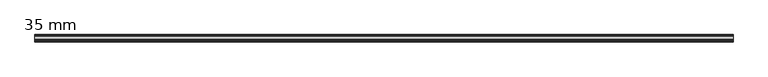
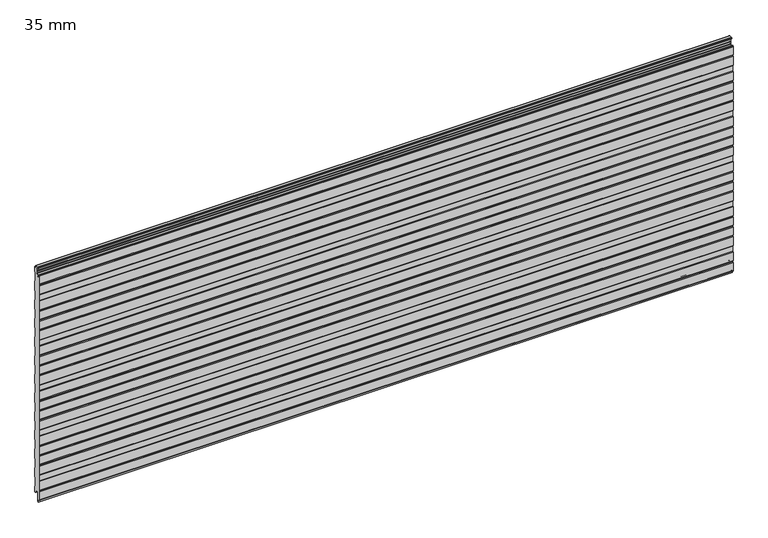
"""IFC4 building model written with IfcOpenShell, lengths in millimetres: plate geometry, HIANSA PANEL - H20.F02.002-PANELES DE FACHADA HORIZONTAL - PANEL PERFILADO - Panel de Muro Cortina : 35 mm."""

from ifc_helpers import new_model, si_unit, frame, origin, place, context, project, spatial, polyline, circle_curve, source, transform, mapped, element, save
from ifc_brep_helpers import plane_surface, cylinder_surface, revolved_surface, advanced_brep


def plate_35_mm_b4336f9e(model_context):
    return source(origin(), model_context, "Body", "AdvancedBrep", [
        advanced_brep(
        [(-1600.0, -33.8752798, 1088.9050598), (-1600.0, -32.5170803, 1089.9655099), (-1600.0, -29.8776596, 1089.9655099), (-1600.0, -29.8776596, 1080.8), (-1600.0, -28.3776596, 1079.3), (-1600.0, -24.1276596, 1079.3), (-1600.0, -22.6276596, 1080.8), (-1600.0, -22.6276596, 1082.4013031), (-1600.0, -21.9880243, 1083.6300312), (-1600.0, -15.9305067, 1087.8715506), (-1600.0, -15.0776596, 1089.5098547), (-1600.0, -15.0776596, 1098.6062275), (-1600.0, -14.3889845, 1099.7990478), (-1600.0, -14.3889845, 1100.7990478), (-1600.0, -15.0776596, 1101.9918681), (-1600.0, -15.0776596, 1111.0896684), (-1600.0, -15.9305067, 1112.7279725), (-1600.0, -21.9880243, 1116.969492), (-1600.0, -22.6276596, 1118.19822), (-1600.0, -22.6276596, 1121.5805697), (-1600.0, -21.1276596, 1123.0805697), (-1600.0, -7.7494039, 1123.0810465), (-1600.0, -6.7486887, 1122.0803313), (-1600.0, -6.7486887, 1115.9337883), (-1600.0, -4.7472517, 1113.9323514), (-1600.0, -1.4941037, 1113.9323514), (-1600.0, -0.5, 1112.9382477), (-1600.0, -0.5, 1088.0627766), (-1600.0, -1.5005169, 1085.0504228), (-1600.0, -1.5005169, 1044.8881451), (-1600.0, -0.5, 1041.8865945), (-1600.0, -0.5, 997.0519734), (-1600.0, -1.5005169, 994.0504228), (-1600.0, -1.5005169, 953.8881451), (-1600.0, -0.5, 950.8865945), (-1600.0, -0.5, 906.0519734), (-1600.0, -1.5005169, 903.0504228), (-1600.0, -1.5005169, 862.8881451), (-1600.0, -0.5, 859.8865945), (-1600.0, -0.5, 815.0519734), (-1600.0, -1.5005169, 812.0504228), (-1600.0, -1.5005169, 771.8881451), (-1600.0, -0.5, 768.8865945), (-1600.0, -0.5, 724.0519734), (-1600.0, -1.5005169, 721.0504228), (-1600.0, -1.5005169, 680.8881451), (-1600.0, -0.5, 677.8865945), (-1600.0, -0.5, 633.0519734), (-1600.0, -1.5005169, 630.0504228), (-1600.0, -1.5005169, 589.8881451), (-1600.0, -0.5, 586.8865945), (-1600.0, -0.5, 542.0519734), (-1600.0, -1.5005169, 539.0504228), (-1600.0, -1.5005169, 498.8881451), (-1600.0, -0.5, 495.8865945), (-1600.0, -0.5, 451.0519734), (-1600.0, -1.5005169, 448.0504228), (-1600.0, -1.5005169, 407.8881451), (-1600.0, -0.5, 404.8865945), (-1600.0, -0.5, 360.0519734), (-1600.0, -1.5005169, 357.0504228), (-1600.0, -1.5005169, 316.8881451), (-1600.0, -0.5, 313.8865945), (-1600.0, -0.5, 269.0519734), (-1600.0, -1.5005169, 266.0504228), (-1600.0, -1.5005169, 225.8881451), (-1600.0, -0.5, 222.8865945), (-1600.0, -0.5, 178.0519734), (-1600.0, -1.5005169, 175.0504228), (-1600.0, -1.5005169, 134.8881451), (-1600.0, -0.5, 131.8865945), (-1600.0, -0.5, 87.0519734), (-1600.0, -1.5005169, 84.0504228), (-1600.0, -1.5005169, 43.8881451), (-1600.0, -0.5, 40.8962672), (-1600.0, -0.5, 15.9680961), (-1600.0, -1.5000258, 14.9680403), (-1600.0, -4.4999967, 14.9677262), (-1600.0, -5.5000043, 15.9677319), (-1600.0, -5.5004096, 23.5818123), (-1600.0, -7.5396439, 25.6210465), (-1600.0, -21.3470846, 25.6210465), (-1600.0, -23.8839497, 23.0841814), (-1600.0, -23.8839497, -19.2), (-1600.0, -28.6276596, -19.2), (-1600.0, -28.6276596, -10.5344901), (-1600.0, -30.1276596, -9.0344901), (-1600.0, -32.5178943, -9.0344901), (-1600.0, -33.8750825, -7.9748295), (-1600.0, -34.5, -5.4751593), (-1600.0, -34.5, 33.6239573), (-1600.0, -33.4846118, 37.6855101), (-1600.0, -34.5, 41.7470629), (-1600.0, -34.5, 84.8265935), (-1600.0, -33.5, 87.8265935), (-1600.0, -33.5, 113.1008712), (-1600.0, -34.5, 116.1008712), (-1600.0, -34.5, 159.1804017), (-1600.0, -33.4846118, 163.2419545), (-1600.0, -34.5, 167.3035073), (-1600.0, -34.5, 206.4026239), (-1600.0, -33.4846118, 210.4641767), (-1600.0, -34.5, 214.5257295), (-1600.0, -34.5, 253.6248461), (-1600.0, -33.4846118, 257.6863989), (-1600.0, -34.5, 261.7479517), (-1600.0, -34.5, 304.8274823), (-1600.0, -33.5, 307.8274823), (-1600.0, -33.5, 333.10176), (-1600.0, -34.5, 336.10176), (-1600.0, -34.5, 379.1812905), (-1600.0, -33.4846118, 383.2428433), (-1600.0, -34.5, 387.3043961), (-1600.0, -34.5, 426.4035127), (-1600.0, -33.4846118, 430.4650655), (-1600.0, -34.5, 434.5266183), (-1600.0, -34.5, 473.6257349), (-1600.0, -33.4846118, 477.6872877), (-1600.0, -34.5, 481.7488405), (-1600.0, -34.5, 524.8283711), (-1600.0, -33.5, 527.8283711), (-1600.0, -33.5, 553.1026488), (-1600.0, -34.5, 556.1026488), (-1600.0, -34.5, 599.1821793), (-1600.0, -33.4846118, 603.2437321), (-1600.0, -34.5, 607.3052849), (-1600.0, -34.5, 646.4044015), (-1600.0, -33.4846118, 650.4659543), (-1600.0, -34.5, 654.5275071), (-1600.0, -34.5, 693.6266237), (-1600.0, -33.4846118, 697.6881765), (-1600.0, -34.5, 701.7497293), (-1600.0, -34.5, 744.8292599), (-1600.0, -33.5, 747.8292599), (-1600.0, -33.5, 773.1035376), (-1600.0, -34.5, 776.1035376), (-1600.0, -34.5, 819.1830681), (-1600.0, -33.4846118, 823.2446209), (-1600.0, -34.5, 827.3061737), (-1600.0, -34.5, 866.4052903), (-1600.0, -33.4846118, 870.4668431), (-1600.0, -34.5, 874.5283959), (-1600.0, -34.5, 913.6275125), (-1600.0, -33.4846118, 917.6890653), (-1600.0, -34.5, 921.7506181), (-1600.0, -34.5, 964.8301487), (-1600.0, -33.5, 967.8301487), (-1600.0, -33.5, 993.1044264), (-1600.0, -34.5, 996.1044264), (-1600.0, -34.5, 1039.1839569), (-1600.0, -33.4846118, 1043.2455097), (-1600.0, -34.5, 1047.3070625), (-1600.0, -34.5, 1086.4061791), (1600.0, -33.8752798, 1088.9050598), (1600.0, -34.5, 1086.4061791), (1600.0, -34.5, 1047.3070625), (1600.0, -33.4846118, 1043.2455097), (1600.0, -34.5, 1039.1839569), (1600.0, -34.5, 996.1044264), (1600.0, -33.5, 993.1044264), (1600.0, -33.5, 967.8301487), (1600.0, -34.5, 964.8301487), (1600.0, -34.5, 921.7506181), (1600.0, -33.4846118, 917.6890653), (1600.0, -34.5, 913.6275125), (1600.0, -34.5, 874.5283959), (1600.0, -33.4846118, 870.4668431), (1600.0, -34.5, 866.4052903), (1600.0, -34.5, 827.3061737), (1600.0, -33.4846118, 823.2446209), (1600.0, -34.5, 819.1830681), (1600.0, -34.5, 776.1035376), (1600.0, -33.5, 773.1035376), (1600.0, -33.5, 747.8292599), (1600.0, -34.5, 744.8292599), (1600.0, -34.5, 701.7497293), (1600.0, -33.4846118, 697.6881765), (1600.0, -34.5, 693.6266237), (1600.0, -34.5, 654.5275071), (1600.0, -33.4846118, 650.4659543), (1600.0, -34.5, 646.4044015), (1600.0, -34.5, 607.3052849), (1600.0, -33.4846118, 603.2437321), (1600.0, -34.5, 599.1821793), (1600.0, -34.5, 556.1026488), (1600.0, -33.5, 553.1026488), (1600.0, -33.5, 527.8283711), (1600.0, -34.5, 524.8283711), (1600.0, -34.5, 481.7488405), (1600.0, -33.4846118, 477.6872877), (1600.0, -34.5, 473.6257349), (1600.0, -34.5, 434.5266183), (1600.0, -33.4846118, 430.4650655), (1600.0, -34.5, 426.4035127), (1600.0, -34.5, 387.3043961), (1600.0, -33.4846118, 383.2428433), (1600.0, -34.5, 379.1812905), (1600.0, -34.5, 336.10176), (1600.0, -33.5, 333.10176), (1600.0, -33.5, 307.8274823), (1600.0, -34.5, 304.8274823), (1600.0, -34.5, 261.7479517), (1600.0, -33.4846118, 257.6863989), (1600.0, -34.5, 253.6248461), (1600.0, -34.5, 214.5257295), (1600.0, -33.4846118, 210.4641767), (1600.0, -34.5, 206.4026239), (1600.0, -34.5, 167.3035073), (1600.0, -33.4846118, 163.2419545), (1600.0, -34.5, 159.1804017), (1600.0, -34.5, 116.1008712), (1600.0, -33.5, 113.1008712), (1600.0, -33.5, 87.8265935), (1600.0, -34.5, 84.8265935), (1600.0, -34.5, 41.7470629), (1600.0, -33.4846118, 37.6855101), (1600.0, -34.5, 33.6239573), (1600.0, -34.5, -5.4751593), (1600.0, -33.8750825, -7.9748295), (1600.0, -32.5178943, -9.0344901), (1600.0, -30.1276596, -9.0344901), (1600.0, -28.6276596, -10.5344901), (1600.0, -28.6276596, -19.2), (1600.0, -23.8839497, -19.2), (1600.0, -23.8839497, 23.0841814), (1600.0, -21.3470846, 25.6210465), (1600.0, -7.5396439, 25.6210465), (1600.0, -5.5004096, 23.5818123), (1600.0, -5.5004096, 15.9677319), (1600.0, -4.4999967, 14.9677262), (1600.0, -1.5000258, 14.9680403), (1600.0, -0.5, 15.9680961), (1600.0, -0.5, 40.8962672), (1600.0, -1.5005169, 43.8881451), (1600.0, -1.5005169, 84.0504228), (1600.0, -0.5, 87.0519734), (1600.0, -0.5, 131.8865945), (1600.0, -1.5005169, 134.8881451), (1600.0, -1.5005169, 175.0504228), (1600.0, -0.5, 178.0519734), (1600.0, -0.5, 222.8865945), (1600.0, -1.5005169, 225.8881451), (1600.0, -1.5005169, 266.0504228), (1600.0, -0.5, 269.0519734), (1600.0, -0.5, 313.8865945), (1600.0, -1.5005169, 316.8881451), (1600.0, -1.5005169, 357.0504228), (1600.0, -0.5, 360.0519734), (1600.0, -0.5, 404.8865945), (1600.0, -1.5005169, 407.8881451), (1600.0, -1.5005169, 448.0504228), (1600.0, -0.5, 451.0519734), (1600.0, -0.5, 495.8865945), (1600.0, -1.5005169, 498.8881451), (1600.0, -1.5005169, 539.0504228), (1600.0, -0.5, 542.0519734), (1600.0, -0.5, 586.8865945), (1600.0, -1.5005169, 589.8881451), (1600.0, -1.5005169, 630.0504228), (1600.0, -0.5, 633.0519734), (1600.0, -0.5, 677.8865945), (1600.0, -1.5005169, 680.8881451), (1600.0, -1.5005169, 721.0504228), (1600.0, -0.5, 724.0519734), (1600.0, -0.5, 768.8865945), (1600.0, -1.5005169, 771.8881451), (1600.0, -1.5005169, 812.0504228), (1600.0, -0.5, 815.0519734), (1600.0, -0.5, 859.8865945), (1600.0, -1.5005169, 862.8881451), (1600.0, -1.5005169, 903.0504228), (1600.0, -0.5, 906.0519734), (1600.0, -0.5, 950.8865945), (1600.0, -1.5005169, 953.8881451), (1600.0, -1.5005169, 994.0504228), (1600.0, -0.5, 997.0519734), (1600.0, -0.5, 1041.8865945), (1600.0, -1.5005169, 1044.8881451), (1600.0, -1.5005169, 1085.0504228), (1600.0, -0.5, 1088.0627766), (1600.0, -0.5, 1112.9382477), (1600.0, -1.4941037, 1113.9323514), (1600.0, -4.7472517, 1113.9323514), (1600.0, -6.7486887, 1115.9337883), (1600.0, -6.7486887, 1122.0803313), (1600.0, -7.7494039, 1123.0810465), (1600.0, -21.1276596, 1123.0810465), (1600.0, -22.6276596, 1121.5805697), (1600.0, -22.6276596, 1118.19822), (1600.0, -21.9880243, 1116.969492), (1600.0, -15.9305067, 1112.7279725), (1600.0, -15.0776596, 1111.0896684), (1600.0, -15.0776596, 1101.9918681), (1600.0, -14.3889845, 1100.7990478), (1600.0, -14.3889845, 1099.7990478), (1600.0, -15.0776596, 1098.6062275), (1600.0, -15.0776596, 1089.5098547), (1600.0, -15.9305067, 1087.8715506), (1600.0, -21.9880243, 1083.6300312), (1600.0, -22.6276596, 1082.4013031), (1600.0, -22.6276596, 1080.8), (1600.0, -24.1276596, 1079.3), (1600.0, -28.3776596, 1079.3), (1600.0, -29.8776596, 1080.8), (1600.0, -29.8776596, 1089.9655099), (1600.0, -32.5170803, 1089.9655099)],
        [
            (0, 1, circle_curve(frame((-1600.0, -32.5170803, 1088.5655099), z_axis=(-1.0, 0.0, 0.0), x_axis=(0.0, 0.0, 1.0)), 1.4)),
            (1, 2),
            (2, 3),
            (3, 4, circle_curve(frame((-1600.0, -28.3776596, 1080.8), z_axis=(1.0, 0.0, 0.0), x_axis=(0.0, 0.0, 1.0)), 1.5)),
            (4, 5),
            (5, 6, circle_curve(frame((-1600.0, -24.1276596, 1080.8), z_axis=(1.0, 0.0, 0.0), x_axis=(0.0, 0.0, 1.0)), 1.5)),
            (6, 7),
            (7, 8, circle_curve(frame((-1600.0, -21.1276596, 1082.4013031), z_axis=(-1.0, 0.0, 0.0), x_axis=(0.0, 0.0, 1.0)), 1.5)),
            (8, 9),
            (9, 10, circle_curve(frame((-1600.0, -17.0776596, 1089.5098547), z_axis=(1.0, 0.0, 0.0), x_axis=(0.0, 0.0, 1.0)), 2.0)),
            (10, 11),
            (11, 12),
            (12, 13, circle_curve(frame((-1600.0, -15.2550099, 1100.2990478), z_axis=(1.0, 0.0, 0.0), x_axis=(0.0, 0.0, 1.0)), 1.0)),
            (13, 14),
            (14, 15),
            (15, 16, circle_curve(frame((-1600.0, -17.0776596, 1111.0896684), z_axis=(1.0, 0.0, 0.0), x_axis=(0.0, 0.0, 1.0)), 2.0)),
            (16, 17),
            (17, 18, circle_curve(frame((-1600.0, -21.1276596, 1118.19822), z_axis=(-1.0, 0.0, 0.0), x_axis=(0.0, 0.0, 1.0)), 1.5)),
            (18, 19),
            (19, 20, circle_curve(frame((-1600.0, -21.1276596, 1121.5805697), z_axis=(-1.0, 0.0, 0.0), x_axis=(0.0, 0.0, 1.0)), 1.5)),
            (20, 21),
            (21, 22, circle_curve(frame((-1600.0, -7.7494039, 1122.0803313), z_axis=(-1.0, 0.0, 0.0), x_axis=(0.0, 0.0, 1.0)), 1.0007153)),
            (22, 23),
            (23, 24, circle_curve(frame((-1600.0, -4.7472517, 1115.9337883), z_axis=(1.0, 0.0, 0.0), x_axis=(0.0, 0.0, 1.0)), 2.0014369)),
            (24, 25),
            (25, 26, circle_curve(frame((-1600.0, -1.4941037, 1112.9382477), z_axis=(-1.0, 0.0, 0.0), x_axis=(0.0, 0.0, 1.0)), 0.9941037)),
            (26, 27),
            (27, 28),
            (28, 29),
            (29, 30),
            (30, 31),
            (31, 32),
            (32, 33),
            (33, 34),
            (34, 35),
            (35, 36),
            (36, 37),
            (37, 38),
            (38, 39),
            (39, 40),
            (40, 41),
            (41, 42),
            (42, 43),
            (43, 44),
            (44, 45),
            (45, 46),
            (46, 47),
            (47, 48),
            (48, 49),
            (49, 50),
            (50, 51),
            (51, 52),
            (52, 53),
            (53, 54),
            (54, 55),
            (55, 56),
            (56, 57),
            (57, 58),
            (58, 59),
            (59, 60),
            (60, 61),
            (61, 62),
            (62, 63),
            (63, 64),
            (64, 65),
            (65, 66),
            (66, 67),
            (67, 68),
            (68, 69),
            (69, 70),
            (70, 71),
            (71, 72),
            (72, 73),
            (73, 74),
            (74, 75),
            (75, 76, circle_curve(frame((-1600.0, -1.5000558, 15.9680961), z_axis=(-1.0, 0.0, 0.0), x_axis=(0.0, 0.0, 1.0)), 1.0000558)),
            (76, 77),
            (77, 78, circle_curve(frame((-1600.0, -4.4999986, 15.9677319), z_axis=(-1.0, 0.0, 0.0), x_axis=(0.0, 0.0, 1.0)), 1.0000057)),
            (78, 79),
            (79, 80, circle_curve(frame((-1600.0, -7.5396439, 23.5818123), z_axis=(1.0, 0.0, 0.0), x_axis=(0.0, 0.0, 1.0)), 2.0392343)),
            (80, 81),
            (81, 82, circle_curve(frame((-1600.0, -21.3470846, 23.0841814), z_axis=(1.0, 0.0, 0.0), x_axis=(0.0, 0.0, 1.0)), 2.5368651)),
            (82, 83),
            (83, 84),
            (84, 85),
            (85, 86, circle_curve(frame((-1600.0, -30.1276596, -10.5344901), z_axis=(1.0, 0.0, 0.0), x_axis=(0.0, 0.0, 1.0)), 1.5)),
            (86, 87),
            (87, 88, circle_curve(frame((-1600.0, -32.5178943, -7.6355325), z_axis=(-1.0, 0.0, 0.0), x_axis=(0.0, 0.0, 1.0)), 1.3989576)),
            (88, 89),
            (89, 90),
            (90, 91),
            (91, 92),
            (92, 93),
            (93, 94),
            (94, 95),
            (95, 96),
            (96, 97),
            (97, 98),
            (98, 99),
            (99, 100),
            (100, 101),
            (101, 102),
            (102, 103),
            (103, 104),
            (104, 105),
            (105, 106),
            (106, 107),
            (107, 108),
            (108, 109),
            (109, 110),
            (110, 111),
            (111, 112),
            (112, 113),
            (113, 114),
            (114, 115),
            (115, 116),
            (116, 117),
            (117, 118),
            (118, 119),
            (119, 120),
            (120, 121),
            (121, 122),
            (122, 123),
            (123, 124),
            (124, 125),
            (125, 126),
            (126, 127),
            (127, 128),
            (128, 129),
            (129, 130),
            (130, 131),
            (131, 132),
            (132, 133),
            (133, 134),
            (134, 135),
            (135, 136),
            (136, 137),
            (137, 138),
            (138, 139),
            (139, 140),
            (140, 141),
            (141, 142),
            (142, 143),
            (143, 144),
            (144, 145),
            (145, 146),
            (146, 147),
            (147, 148),
            (148, 149),
            (149, 150),
            (150, 151),
            (151, 152),
            (152, 0),
            (153, 154),
            (154, 155),
            (155, 156),
            (156, 157),
            (157, 158),
            (158, 159),
            (159, 160),
            (160, 161),
            (161, 162),
            (162, 163),
            (163, 164),
            (164, 165),
            (165, 166),
            (166, 167),
            (167, 168),
            (168, 169),
            (169, 170),
            (170, 171),
            (171, 172),
            (172, 173),
            (173, 174),
            (174, 175),
            (175, 176),
            (176, 177),
            (177, 178),
            (178, 179),
            (179, 180),
            (180, 181),
            (181, 182),
            (182, 183),
            (183, 184),
            (184, 185),
            (185, 186),
            (186, 187),
            (187, 188),
            (188, 189),
            (189, 190),
            (190, 191),
            (191, 192),
            (192, 193),
            (193, 194),
            (194, 195),
            (195, 196),
            (196, 197),
            (197, 198),
            (198, 199),
            (199, 200),
            (200, 201),
            (201, 202),
            (202, 203),
            (203, 204),
            (204, 205),
            (205, 206),
            (206, 207),
            (207, 208),
            (208, 209),
            (209, 210),
            (210, 211),
            (211, 212),
            (212, 213),
            (213, 214),
            (214, 215),
            (215, 216),
            (216, 217),
            (217, 218),
            (218, 219, circle_curve(frame((1600.0, -32.5178943, -7.6355325), z_axis=(1.0, 0.0, 0.0), x_axis=(0.0, 0.0, 1.0)), 1.3989576)),
            (219, 220),
            (220, 221, circle_curve(frame((1600.0, -30.1276596, -10.5344901), z_axis=(-1.0, 0.0, 0.0), x_axis=(0.0, 0.0, 1.0)), 1.5)),
            (221, 222),
            (222, 223),
            (223, 224),
            (224, 225, circle_curve(frame((1600.0, -21.3470846, 23.0841814), z_axis=(-1.0, 0.0, 0.0), x_axis=(0.0, 0.0, 1.0)), 2.5368651)),
            (225, 226),
            (226, 227, circle_curve(frame((1600.0, -7.5396439, 23.5818123), z_axis=(-1.0, 0.0, 0.0), x_axis=(0.0, 0.0, 1.0)), 2.0392343)),
            (227, 228),
            (228, 229, circle_curve(frame((1600.0, -4.4999986, 15.9677319), z_axis=(1.0, 0.0, 0.0), x_axis=(0.0, 0.0, 1.0)), 1.0000057)),
            (229, 230),
            (230, 231, circle_curve(frame((1600.0, -1.5000558, 15.9680961), z_axis=(1.0, 0.0, 0.0), x_axis=(0.0, 0.0, 1.0)), 1.0000558)),
            (231, 232),
            (232, 233),
            (233, 234),
            (234, 235),
            (235, 236),
            (236, 237),
            (237, 238),
            (238, 239),
            (239, 240),
            (240, 241),
            (241, 242),
            (242, 243),
            (243, 244),
            (244, 245),
            (245, 246),
            (246, 247),
            (247, 248),
            (248, 249),
            (249, 250),
            (250, 251),
            (251, 252),
            (252, 253),
            (253, 254),
            (254, 255),
            (255, 256),
            (256, 257),
            (257, 258),
            (258, 259),
            (259, 260),
            (260, 261),
            (261, 262),
            (262, 263),
            (263, 264),
            (264, 265),
            (265, 266),
            (266, 267),
            (267, 268),
            (268, 269),
            (269, 270),
            (270, 271),
            (271, 272),
            (272, 273),
            (273, 274),
            (274, 275),
            (275, 276),
            (276, 277),
            (277, 278),
            (278, 279),
            (279, 280),
            (280, 281, circle_curve(frame((1600.0, -1.4941037, 1112.9382477), z_axis=(1.0, 0.0, 0.0), x_axis=(0.0, 0.0, 1.0)), 0.9941037)),
            (281, 282),
            (282, 283, circle_curve(frame((1600.0, -4.7472517, 1115.9337883), z_axis=(-1.0, 0.0, 0.0), x_axis=(0.0, 0.0, 1.0)), 2.0014369)),
            (283, 284),
            (284, 285, circle_curve(frame((1600.0, -7.7494039, 1122.0803313), z_axis=(1.0, 0.0, 0.0), x_axis=(0.0, 0.0, 1.0)), 1.0007153)),
            (285, 286),
            (286, 287, circle_curve(frame((1600.0, -21.1276596, 1121.5805697), z_axis=(1.0, 0.0, 0.0), x_axis=(0.0, 0.0, 1.0)), 1.5)),
            (287, 288),
            (288, 289, circle_curve(frame((1600.0, -21.1276596, 1118.19822), z_axis=(1.0, 0.0, 0.0), x_axis=(0.0, 0.0, 1.0)), 1.5)),
            (289, 290),
            (290, 291, circle_curve(frame((1600.0, -17.0776596, 1111.0896684), z_axis=(-1.0, 0.0, 0.0), x_axis=(0.0, 0.0, 1.0)), 2.0)),
            (291, 292),
            (292, 293),
            (293, 294, circle_curve(frame((1600.0, -15.2550099, 1100.2990478), z_axis=(-1.0, 0.0, 0.0), x_axis=(0.0, 0.0, 1.0)), 1.0)),
            (294, 295),
            (295, 296),
            (296, 297, circle_curve(frame((1600.0, -17.0776596, 1089.5098547), z_axis=(-1.0, 0.0, 0.0), x_axis=(0.0, 0.0, 1.0)), 2.0)),
            (297, 298),
            (298, 299, circle_curve(frame((1600.0, -21.1276596, 1082.4013031), z_axis=(1.0, 0.0, 0.0), x_axis=(0.0, 0.0, 1.0)), 1.5)),
            (299, 300),
            (300, 301, circle_curve(frame((1600.0, -24.1276596, 1080.8), z_axis=(-1.0, 0.0, 0.0), x_axis=(0.0, 0.0, 1.0)), 1.5)),
            (301, 302),
            (302, 303, circle_curve(frame((1600.0, -28.3776596, 1080.8), z_axis=(-1.0, 0.0, 0.0), x_axis=(0.0, 0.0, 1.0)), 1.5)),
            (303, 304),
            (304, 305),
            (305, 153, circle_curve(frame((1600.0, -32.5170803, 1088.5655099), z_axis=(1.0, 0.0, 0.0), x_axis=(0.0, 0.0, 1.0)), 1.4)),
            (147, 159),
            (158, 148),
            (146, 160),
            (145, 161),
            (144, 162),
            (143, 163),
            (142, 164),
            (141, 165),
            (140, 166),
            (139, 167),
            (138, 168),
            (137, 169),
            (136, 170),
            (135, 171),
            (134, 172),
            (133, 173),
            (132, 174),
            (131, 175),
            (130, 176),
            (129, 177),
            (128, 178),
            (127, 179),
            (126, 180),
            (125, 181),
            (124, 182),
            (123, 183),
            (122, 184),
            (121, 185),
            (120, 186),
            (119, 187),
            (118, 188),
            (117, 189),
            (116, 190),
            (115, 191),
            (114, 192),
            (113, 193),
            (112, 194),
            (111, 195),
            (110, 196),
            (109, 197),
            (108, 198),
            (107, 199),
            (106, 200),
            (105, 201),
            (104, 202),
            (103, 203),
            (102, 204),
            (101, 205),
            (100, 206),
            (99, 207),
            (98, 208),
            (97, 209),
            (96, 210),
            (95, 211),
            (94, 212),
            (93, 213),
            (92, 214),
            (91, 215),
            (90, 216),
            (89, 217),
            (88, 218),
            (87, 219),
            (86, 220),
            (85, 221),
            (84, 222),
            (83, 223),
            (82, 224),
            (81, 225),
            (80, 226),
            (79, 227),
            (78, 228),
            (74, 232),
            (231, 75),
            (73, 233),
            (72, 234),
            (71, 235),
            (70, 236),
            (69, 237),
            (68, 238),
            (67, 239),
            (66, 240),
            (65, 241),
            (64, 242),
            (63, 243),
            (62, 244),
            (61, 245),
            (60, 246),
            (59, 247),
            (58, 248),
            (57, 249),
            (56, 250),
            (55, 251),
            (54, 252),
            (53, 253),
            (52, 254),
            (51, 255),
            (50, 256),
            (49, 257),
            (48, 258),
            (47, 259),
            (46, 260),
            (45, 261),
            (44, 262),
            (43, 263),
            (42, 264),
            (41, 265),
            (40, 266),
            (39, 267),
            (38, 268),
            (37, 269),
            (36, 270),
            (35, 271),
            (34, 272),
            (33, 273),
            (32, 274),
            (31, 275),
            (30, 276),
            (152, 154),
            (153, 0),
            (151, 155),
            (150, 156),
            (149, 157),
            (29, 277),
            (28, 278),
            (27, 279),
            (26, 280),
            (25, 281),
            (24, 282),
            (23, 283),
            (22, 284),
            (21, 285),
            (20, 286),
            (19, 287),
            (18, 288),
            (17, 289),
            (16, 290),
            (15, 291),
            (9, 297),
            (296, 10),
            (8, 298),
            (7, 299),
            (6, 300),
            (5, 301),
            (4, 302),
            (3, 303),
            (2, 304),
            (1, 305),
            (14, 292),
            (13, 293),
            (12, 294),
            (11, 295),
            (77, 229),
            (76, 230),
        ],
        [
            plane_surface(frame((-1600.0, 0.0, 0.0), z_axis=(-1.0, 0.0, 0.0), x_axis=(0.0, 0.0, 1.0))),
            plane_surface(frame((1600.0, 0.0, 0.0), z_axis=(1.0, 0.0, 0.0), x_axis=(0.0, 0.0, 1.0))),
            plane_surface(frame((-1600.0, -34.5, 996.1044264), z_axis=(0.0, -0.9486832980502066, -0.3162277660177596), x_axis=(1.0, 0.0, 0.0))),
            plane_surface(frame((-1600.0, -33.5, 993.1044264), z_axis=(0.0, -1.0, 0.0), x_axis=(1.0, 0.0, 0.0))),
            plane_surface(frame((-1600.0, -33.5, 967.8301487), z_axis=(0.0, -0.9486832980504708, 0.3162277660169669), x_axis=(1.0, 0.0, 0.0))),
            plane_surface(frame((-1600.0, -34.5, 964.8301487), z_axis=(0.0, -1.0, 0.0), x_axis=(1.0, 0.0, 0.0))),
            plane_surface(frame((-1600.0, -34.5, 921.7506181), z_axis=(0.0, -0.9701425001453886, -0.24253562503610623), x_axis=(1.0, 0.0, 0.0))),
            plane_surface(frame((-1600.0, -33.4846118, 917.6890653), z_axis=(0.0, -0.9701425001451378, 0.24253562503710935), x_axis=(1.0, 0.0, 0.0))),
            plane_surface(frame((-1600.0, -34.5, 913.6275125), z_axis=(0.0, -1.0, 0.0), x_axis=(1.0, 0.0, 0.0))),
            plane_surface(frame((-1600.0, -34.5, 874.5283959), z_axis=(0.0, -0.9701425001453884, -0.2425356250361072), x_axis=(1.0, 0.0, 0.0))),
            plane_surface(frame((-1600.0, -33.4846118, 870.4668431), z_axis=(0.0, -0.970142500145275, 0.24253562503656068), x_axis=(1.0, 0.0, 0.0))),
            plane_surface(frame((-1600.0, -34.5, 866.4052903), z_axis=(0.0, -1.0, 0.0), x_axis=(1.0, 0.0, 0.0))),
            plane_surface(frame((-1600.0, -34.5, 827.3061737), z_axis=(0.0, -0.9701425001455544, -0.2425356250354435), x_axis=(1.0, 0.0, 0.0))),
            plane_surface(frame((-1600.0, -33.4846118, 823.2446209), z_axis=(0.0, -0.9701425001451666, 0.24253562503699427), x_axis=(1.0, 0.0, 0.0))),
            plane_surface(frame((-1600.0, -34.5, 819.1830681), z_axis=(0.0, -1.0, 0.0), x_axis=(1.0, 0.0, 0.0))),
            plane_surface(frame((-1600.0, -34.5, 776.1035376), z_axis=(0.0, -0.9486832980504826, -0.31622776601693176), x_axis=(1.0, 0.0, 0.0))),
            plane_surface(frame((-1600.0, -33.5, 773.1035376), z_axis=(0.0, -1.0, 0.0), x_axis=(1.0, 0.0, 0.0))),
            plane_surface(frame((-1600.0, -33.5, 747.8292599), z_axis=(0.0, -0.9486832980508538, 0.316227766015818), x_axis=(1.0, 0.0, 0.0))),
            plane_surface(frame((-1600.0, -34.5, 744.8292599), z_axis=(0.0, -1.0, 0.0), x_axis=(1.0, 0.0, 0.0))),
            plane_surface(frame((-1600.0, -34.5, 701.7497293), z_axis=(0.0, -0.9701425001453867, -0.24253562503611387), x_axis=(1.0, 0.0, 0.0))),
            plane_surface(frame((-1600.0, -33.4846118, 697.6881765), z_axis=(0.0, -0.9701425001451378, 0.24253562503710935), x_axis=(1.0, 0.0, 0.0))),
            plane_surface(frame((-1600.0, -34.5, 693.6266237), z_axis=(0.0, -1.0, 0.0), x_axis=(1.0, 0.0, 0.0))),
            plane_surface(frame((-1600.0, -34.5, 654.5275071), z_axis=(0.0, -0.9701425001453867, -0.24253562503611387), x_axis=(1.0, 0.0, 0.0))),
            plane_surface(frame((-1600.0, -33.4846118, 650.4659543), z_axis=(0.0, -0.9701425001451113, 0.24253562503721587), x_axis=(1.0, 0.0, 0.0))),
            plane_surface(frame((-1600.0, -34.5, 646.4044015), z_axis=(0.0, -1.0, 0.0), x_axis=(1.0, 0.0, 0.0))),
            plane_surface(frame((-1600.0, -34.5, 607.3052849), z_axis=(0.0, -0.9701425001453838, -0.24253562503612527), x_axis=(1.0, 0.0, 0.0))),
            plane_surface(frame((-1600.0, -33.4846118, 603.2437321), z_axis=(0.0, -0.9701425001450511, 0.24253562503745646), x_axis=(1.0, 0.0, 0.0))),
            plane_surface(frame((-1600.0, -34.5, 599.1821793), z_axis=(0.0, -1.0, 0.0), x_axis=(1.0, 0.0, 0.0))),
            plane_surface(frame((-1600.0, -34.5, 556.1026488), z_axis=(0.0, -0.9486832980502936, -0.31622776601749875), x_axis=(1.0, 0.0, 0.0))),
            plane_surface(frame((-1600.0, -33.5, 553.1026488), z_axis=(0.0, -1.0, 0.0), x_axis=(1.0, 0.0, 0.0))),
            plane_surface(frame((-1600.0, -33.5, 527.8283711), z_axis=(0.0, -0.9486832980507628, 0.31622776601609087), x_axis=(1.0, 0.0, 0.0))),
            plane_surface(frame((-1600.0, -34.5, 524.8283711), z_axis=(0.0, -1.0, 0.0), x_axis=(1.0, 0.0, 0.0))),
            plane_surface(frame((-1600.0, -34.5, 481.7488405), z_axis=(0.0, -0.9701425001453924, -0.24253562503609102), x_axis=(1.0, 0.0, 0.0))),
            plane_surface(frame((-1600.0, -33.4846118, 477.6872877), z_axis=(0.0, -0.970142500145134, 0.24253562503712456), x_axis=(1.0, 0.0, 0.0))),
            plane_surface(frame((-1600.0, -34.5, 473.6257349), z_axis=(0.0, -1.0, 0.0), x_axis=(1.0, 0.0, 0.0))),
            plane_surface(frame((-1600.0, -34.5, 434.5266183), z_axis=(0.0, -0.9701425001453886, -0.24253562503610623), x_axis=(1.0, 0.0, 0.0))),
            plane_surface(frame((-1600.0, -33.4846118, 430.4650655), z_axis=(0.0, -0.9701425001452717, 0.24253562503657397), x_axis=(1.0, 0.0, 0.0))),
            plane_surface(frame((-1600.0, -34.5, 426.4035127), z_axis=(0.0, -1.0, 0.0), x_axis=(1.0, 0.0, 0.0))),
            plane_surface(frame((-1600.0, -34.5, 387.3043961), z_axis=(0.0, -0.9701425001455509, -0.24253562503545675), x_axis=(1.0, 0.0, 0.0))),
            plane_surface(frame((-1600.0, -33.4846118, 383.2428433), z_axis=(0.0, -0.9701425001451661, 0.2425356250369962), x_axis=(1.0, 0.0, 0.0))),
            plane_surface(frame((-1600.0, -34.5, 379.1812905), z_axis=(0.0, -1.0, 0.0), x_axis=(1.0, 0.0, 0.0))),
            plane_surface(frame((-1600.0, -34.5, 336.10176), z_axis=(0.0, -0.9486832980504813, -0.3162277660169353), x_axis=(1.0, 0.0, 0.0))),
            plane_surface(frame((-1600.0, -33.5, 333.10176), z_axis=(0.0, -1.0, 0.0), x_axis=(1.0, 0.0, 0.0))),
            plane_surface(frame((-1600.0, -33.5, 307.8274823), z_axis=(0.0, -0.9486832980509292, 0.3162277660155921), x_axis=(1.0, 0.0, 0.0))),
            plane_surface(frame((-1600.0, -34.5, 304.8274823), z_axis=(0.0, -1.0, 0.0), x_axis=(1.0, 0.0, 0.0))),
            plane_surface(frame((-1600.0, -34.5, 261.7479517), z_axis=(0.0, -0.9701425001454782, -0.24253562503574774), x_axis=(1.0, 0.0, 0.0))),
            plane_surface(frame((-1600.0, -33.4846118, 257.6863989), z_axis=(0.0, -0.970142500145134, 0.24253562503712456), x_axis=(1.0, 0.0, 0.0))),
            plane_surface(frame((-1600.0, -34.5, 253.6248461), z_axis=(0.0, -1.0, 0.0), x_axis=(1.0, 0.0, 0.0))),
            plane_surface(frame((-1600.0, -34.5, 214.5257295), z_axis=(0.0, -0.9701425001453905, -0.24253562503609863), x_axis=(1.0, 0.0, 0.0))),
            plane_surface(frame((-1600.0, -33.4846118, 210.4641767), z_axis=(0.0, -0.9701425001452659, 0.24253562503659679), x_axis=(1.0, 0.0, 0.0))),
            plane_surface(frame((-1600.0, -34.5, 206.4026239), z_axis=(0.0, -1.0, 0.0), x_axis=(1.0, 0.0, 0.0))),
            plane_surface(frame((-1600.0, -34.5, 167.3035073), z_axis=(0.0, -0.97014250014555, -0.24253562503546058), x_axis=(1.0, 0.0, 0.0))),
            plane_surface(frame((-1600.0, -33.4846118, 163.2419545), z_axis=(0.0, -0.9701425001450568, 0.24253562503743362), x_axis=(1.0, 0.0, 0.0))),
            plane_surface(frame((-1600.0, -34.5, 159.1804017), z_axis=(0.0, -1.0, 0.0), x_axis=(1.0, 0.0, 0.0))),
            plane_surface(frame((-1600.0, -34.5, 116.1008712), z_axis=(0.0, -0.9486832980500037, -0.3162277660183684), x_axis=(1.0, 0.0, 0.0))),
            plane_surface(frame((-1600.0, -33.5, 113.1008712), z_axis=(0.0, -1.0, 0.0), x_axis=(1.0, 0.0, 0.0))),
            plane_surface(frame((-1600.0, -33.5, 87.8265935), z_axis=(0.0, -0.9486832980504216, 0.31622776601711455), x_axis=(1.0, 0.0, 0.0))),
            plane_surface(frame((-1600.0, -34.5, 84.8265935), z_axis=(0.0, -1.0, 0.0), x_axis=(1.0, 0.0, 0.0))),
            plane_surface(frame((-1600.0, -34.5, 41.7470629), z_axis=(0.0, -0.9701425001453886, -0.24253562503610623), x_axis=(1.0, 0.0, 0.0))),
            plane_surface(frame((-1600.0, -33.4846118, 37.6855101), z_axis=(0.0, -0.9701425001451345, 0.24253562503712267), x_axis=(1.0, 0.0, 0.0))),
            plane_surface(frame((-1600.0, -34.5, 33.6239573), z_axis=(0.0, -1.0, 0.0), x_axis=(1.0, 0.0, 0.0))),
            plane_surface(frame((-1600.0, -34.5, -5.4751593), z_axis=(0.0, -0.9701425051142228, -0.2425356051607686), x_axis=(1.0, 0.0, 0.0))),
            cylinder_surface(frame((-1600.0, -32.5178943, -7.6355325), z_axis=(-1.0, 0.0, 0.0), x_axis=(0.0, 0.0, 1.0)), 1.3989576),
            plane_surface(frame((-1600.0, -32.5178943, -9.0344901), z_axis=(0.0, 0.0, -1.0), x_axis=(1.0, 0.0, 0.0))),
            revolved_surface(polyline([(1600.0, -30.1276596, -9.0344901), (-1600.0, -30.1276596, -9.0344901)]), (-1600.0, -30.1276596, -10.5344901), (1.0, 0.0, 0.0)),
            plane_surface(frame((-1600.0, -28.6276596, -10.5344901), z_axis=(0.0, -1.0, 0.0), x_axis=(1.0, 0.0, 0.0))),
            plane_surface(frame((-1600.0, -28.6276596, -19.2), z_axis=(0.0, 0.0, -1.0), x_axis=(1.0, 0.0, 0.0))),
            plane_surface(frame((-1600.0, -23.8839497, -19.2), z_axis=(0.0, 1.0, 0.0), x_axis=(1.0, 0.0, 0.0))),
            revolved_surface(polyline([(1600.0, -21.3470846, 25.6210465), (-1600.0, -21.3470846, 25.6210465)]), (-1600.0, -21.3470846, 23.0841814), (1.0, 0.0, 0.0)),
            plane_surface(frame((-1600.0, -21.3470846, 25.6210465), z_axis=(0.0, 0.0, -1.0), x_axis=(1.0, 0.0, 0.0))),
            revolved_surface(polyline([(1600.0, -7.5396439, 25.6210466), (-1600.0, -7.5396439, 25.6210466)]), (-1600.0, -7.5396439, 23.5818123), (1.0, 0.0, 0.0)),
            plane_surface(frame((-1600.0, -5.5004096, 23.5818123), z_axis=(0.0, -1.0, 0.0), x_axis=(1.0, 0.0, 0.0))),
            plane_surface(frame((-1600.0, -0.5, 15.9680961), z_axis=(0.0, 1.0, 0.0), x_axis=(1.0, 0.0, 0.0))),
            plane_surface(frame((-1600.0, -0.5, 40.8962672), z_axis=(0.0, 0.9483762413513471, 0.31714744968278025), x_axis=(1.0, 0.0, 0.0))),
            plane_surface(frame((-1600.0, -1.5005169, 43.8881451), z_axis=(0.0, 1.0, 0.0), x_axis=(1.0, 0.0, 0.0))),
            plane_surface(frame((-1600.0, -1.5005169, 84.0504228), z_axis=(0.0, 0.9486832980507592, -0.3162277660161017), x_axis=(1.0, 0.0, 0.0))),
            plane_surface(frame((-1600.0, -0.5, 87.0519734), z_axis=(0.0, 1.0, 0.0), x_axis=(1.0, 0.0, 0.0))),
            plane_surface(frame((-1600.0, -0.5, 131.8865945), z_axis=(0.0, 0.948683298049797, 0.3162277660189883), x_axis=(1.0, 0.0, 0.0))),
            plane_surface(frame((-1600.0, -1.5005169, 134.8881451), z_axis=(0.0, 1.0, 0.0), x_axis=(1.0, 0.0, 0.0))),
            plane_surface(frame((-1600.0, -1.5005169, 175.0504228), z_axis=(0.0, 0.9486832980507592, -0.3162277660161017), x_axis=(1.0, 0.0, 0.0))),
            plane_surface(frame((-1600.0, -0.5, 178.0519734), z_axis=(0.0, 1.0, 0.0), x_axis=(1.0, 0.0, 0.0))),
            plane_surface(frame((-1600.0, -0.5, 222.8865945), z_axis=(0.0, 0.948683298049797, 0.3162277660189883), x_axis=(1.0, 0.0, 0.0))),
            plane_surface(frame((-1600.0, -1.5005169, 225.8881451), z_axis=(0.0, 1.0, 0.0), x_axis=(1.0, 0.0, 0.0))),
            plane_surface(frame((-1600.0, -1.5005169, 266.0504228), z_axis=(0.0, 0.9486832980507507, -0.3162277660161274), x_axis=(1.0, 0.0, 0.0))),
            plane_surface(frame((-1600.0, -0.5, 269.0519734), z_axis=(0.0, 1.0, 0.0), x_axis=(1.0, 0.0, 0.0))),
            plane_surface(frame((-1600.0, -0.5, 313.8865945), z_axis=(0.0, 0.9486832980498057, 0.31622776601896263), x_axis=(1.0, 0.0, 0.0))),
            plane_surface(frame((-1600.0, -1.5005169, 316.8881451), z_axis=(0.0, 1.0, 0.0), x_axis=(1.0, 0.0, 0.0))),
            plane_surface(frame((-1600.0, -1.5005169, 357.0504228), z_axis=(0.0, 0.9486832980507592, -0.3162277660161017), x_axis=(1.0, 0.0, 0.0))),
            plane_surface(frame((-1600.0, -0.5, 360.0519734), z_axis=(0.0, 1.0, 0.0), x_axis=(1.0, 0.0, 0.0))),
            plane_surface(frame((-1600.0, -0.5, 404.8865945), z_axis=(0.0, 0.948683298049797, 0.3162277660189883), x_axis=(1.0, 0.0, 0.0))),
            plane_surface(frame((-1600.0, -1.5005169, 407.8881451), z_axis=(0.0, 1.0, 0.0), x_axis=(1.0, 0.0, 0.0))),
            plane_surface(frame((-1600.0, -1.5005169, 448.0504228), z_axis=(0.0, 0.9486832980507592, -0.3162277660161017), x_axis=(1.0, 0.0, 0.0))),
            plane_surface(frame((-1600.0, -0.5, 451.0519734), z_axis=(0.0, 1.0, 0.0), x_axis=(1.0, 0.0, 0.0))),
            plane_surface(frame((-1600.0, -0.5, 495.8865945), z_axis=(0.0, 0.9486832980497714, 0.3162277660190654), x_axis=(1.0, 0.0, 0.0))),
            plane_surface(frame((-1600.0, -1.5005169, 498.8881451), z_axis=(0.0, 1.0, 0.0), x_axis=(1.0, 0.0, 0.0))),
            plane_surface(frame((-1600.0, -1.5005169, 539.0504228), z_axis=(0.0, 0.9486832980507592, -0.3162277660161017), x_axis=(1.0, 0.0, 0.0))),
            plane_surface(frame((-1600.0, -0.5, 542.0519734), z_axis=(0.0, 1.0, 0.0), x_axis=(1.0, 0.0, 0.0))),
            plane_surface(frame((-1600.0, -0.5, 586.8865945), z_axis=(0.0, 0.9486832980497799, 0.3162277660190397), x_axis=(1.0, 0.0, 0.0))),
            plane_surface(frame((-1600.0, -1.5005169, 589.8881451), z_axis=(0.0, 1.0, 0.0), x_axis=(1.0, 0.0, 0.0))),
            plane_surface(frame((-1600.0, -1.5005169, 630.0504228), z_axis=(0.0, 0.9486832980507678, -0.316227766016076), x_axis=(1.0, 0.0, 0.0))),
            plane_surface(frame((-1600.0, -0.5, 633.0519734), z_axis=(0.0, 1.0, 0.0), x_axis=(1.0, 0.0, 0.0))),
            plane_surface(frame((-1600.0, -0.5, 677.8865945), z_axis=(0.0, 0.9486832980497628, 0.3162277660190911), x_axis=(1.0, 0.0, 0.0))),
            plane_surface(frame((-1600.0, -1.5005169, 680.8881451), z_axis=(0.0, 1.0, 0.0), x_axis=(1.0, 0.0, 0.0))),
            plane_surface(frame((-1600.0, -1.5005169, 721.0504228), z_axis=(0.0, 0.9486832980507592, -0.3162277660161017), x_axis=(1.0, 0.0, 0.0))),
            plane_surface(frame((-1600.0, -0.5, 724.0519734), z_axis=(0.0, 1.0, 0.0), x_axis=(1.0, 0.0, 0.0))),
            plane_surface(frame((-1600.0, -0.5, 768.8865945), z_axis=(0.0, 0.9486832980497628, 0.3162277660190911), x_axis=(1.0, 0.0, 0.0))),
            plane_surface(frame((-1600.0, -1.5005169, 771.8881451), z_axis=(0.0, 1.0, 0.0), x_axis=(1.0, 0.0, 0.0))),
            plane_surface(frame((-1600.0, -1.5005169, 812.0504228), z_axis=(0.0, 0.9486832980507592, -0.3162277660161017), x_axis=(1.0, 0.0, 0.0))),
            plane_surface(frame((-1600.0, -0.5, 815.0519734), z_axis=(0.0, 1.0, 0.0), x_axis=(1.0, 0.0, 0.0))),
            plane_surface(frame((-1600.0, -0.5, 859.8865945), z_axis=(0.0, 0.9486832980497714, 0.3162277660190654), x_axis=(1.0, 0.0, 0.0))),
            plane_surface(frame((-1600.0, -1.5005169, 862.8881451), z_axis=(0.0, 1.0, 0.0), x_axis=(1.0, 0.0, 0.0))),
            plane_surface(frame((-1600.0, -1.5005169, 903.0504228), z_axis=(0.0, 0.9486832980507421, -0.3162277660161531), x_axis=(1.0, 0.0, 0.0))),
            plane_surface(frame((-1600.0, -0.5, 906.0519734), z_axis=(0.0, 1.0, 0.0), x_axis=(1.0, 0.0, 0.0))),
            plane_surface(frame((-1600.0, -0.5, 950.8865945), z_axis=(0.0, 0.9486832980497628, 0.3162277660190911), x_axis=(1.0, 0.0, 0.0))),
            plane_surface(frame((-1600.0, -1.5005169, 953.8881451), z_axis=(0.0, 1.0, 0.0), x_axis=(1.0, 0.0, 0.0))),
            plane_surface(frame((-1600.0, -1.5005169, 994.0504228), z_axis=(0.0, 0.9486832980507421, -0.3162277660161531), x_axis=(1.0, 0.0, 0.0))),
            plane_surface(frame((-1600.0, -0.5, 997.0519734), z_axis=(0.0, 1.0, 0.0), x_axis=(1.0, 0.0, 0.0))),
            plane_surface(frame((-1600.0, -33.8752798, 1088.9050598), z_axis=(0.0, -0.9701425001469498, 0.2425356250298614), x_axis=(1.0, 0.0, 0.0))),
            plane_surface(frame((-1600.0, -34.5, 1086.4061791), z_axis=(0.0, -1.0, 0.0), x_axis=(1.0, 0.0, 0.0))),
            plane_surface(frame((-1600.0, -34.5, 1047.3070625), z_axis=(0.0, -0.9701425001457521, -0.24253562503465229), x_axis=(1.0, 0.0, 0.0))),
            plane_surface(frame((-1600.0, -33.4846118, 1043.2455097), z_axis=(0.0, -0.970142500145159, 0.24253562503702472), x_axis=(1.0, 0.0, 0.0))),
            plane_surface(frame((-1600.0, -34.5, 1039.1839569), z_axis=(0.0, -1.0, 0.0), x_axis=(1.0, 0.0, 0.0))),
            plane_surface(frame((-1600.0, -0.5, 1041.8865945), z_axis=(0.0, 0.9486832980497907, 0.3162277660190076), x_axis=(1.0, 0.0, 0.0))),
            plane_surface(frame((-1600.0, -1.5005169, 1044.8881451), z_axis=(0.0, 1.0, 0.0), x_axis=(1.0, 0.0, 0.0))),
            plane_surface(frame((-1600.0, -1.5005169, 1085.0504228), z_axis=(0.0, 0.9490230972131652, -0.31520653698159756), x_axis=(1.0, 0.0, 0.0))),
            plane_surface(frame((-1600.0, -0.5, 1088.0627766), z_axis=(0.0, 1.0, 0.0), x_axis=(1.0, 0.0, 0.0))),
            cylinder_surface(frame((-1600.0, -1.4941037, 1112.9382477), z_axis=(-1.0, 0.0, 0.0), x_axis=(0.0, 0.0, 1.0)), 0.9941037),
            plane_surface(frame((-1600.0, -1.4941037, 1113.9323514), z_axis=(0.0, 0.0, 1.0), x_axis=(1.0, 0.0, 0.0))),
            revolved_surface(polyline([(1600.0, -4.7472517, 1117.9352252), (-1600.0, -4.7472517, 1117.9352252)]), (-1600.0, -4.7472517, 1115.9337883), (1.0, 0.0, 0.0)),
            plane_surface(frame((-1600.0, -6.7486887, 1115.9337883), z_axis=(0.0, 1.0, 0.0), x_axis=(1.0, 0.0, 0.0))),
            cylinder_surface(frame((-1600.0, -7.7494039, 1122.0803313), z_axis=(-1.0, 0.0, 0.0), x_axis=(0.0, 0.0, 1.0)), 1.0007153),
            plane_surface(frame((-1600.0, -7.7494039, 1123.0810465), z_axis=(0.0, 0.0, 1.0), x_axis=(1.0, 0.0, 0.0))),
            cylinder_surface(frame((-1600.0, -21.1276596, 1121.5805697), z_axis=(-1.0, 0.0, 0.0), x_axis=(0.0, 0.0, 1.0)), 1.5),
            plane_surface(frame((-1600.0, -22.6276596, 1121.5805697), z_axis=(0.0, -1.0, 0.0), x_axis=(1.0, 0.0, 0.0))),
            cylinder_surface(frame((-1600.0, -21.1276596, 1118.19822), z_axis=(-1.0, 0.0, 0.0), x_axis=(0.0, 0.0, 1.0)), 1.5),
            plane_surface(frame((-1600.0, -21.9880243, 1116.969492), z_axis=(0.0, -0.5735764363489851, -0.8191520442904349), x_axis=(1.0, 0.0, 0.0))),
            revolved_surface(polyline([(1600.0, -17.0776596, 1113.0896684), (-1600.0, -17.0776596, 1113.0896684)]), (-1600.0, -17.0776596, 1111.0896684), (1.0, 0.0, 0.0)),
            revolved_surface(polyline([(1600.0, -17.0776596, 1091.5098547), (-1600.0, -17.0776596, 1091.5098547)]), (-1600.0, -17.0776596, 1089.5098547), (1.0, 0.0, 0.0)),
            plane_surface(frame((-1600.0, -15.9305067, 1087.8715506), z_axis=(0.0, -0.5735764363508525, 0.8191520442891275), x_axis=(1.0, 0.0, 0.0))),
            cylinder_surface(frame((-1600.0, -21.1276596, 1082.4013031), z_axis=(-1.0, 0.0, 0.0), x_axis=(0.0, 0.0, 1.0)), 1.5),
            plane_surface(frame((-1600.0, -22.6276596, 1082.4013031), z_axis=(0.0, -1.0, 0.0), x_axis=(1.0, 0.0, 0.0))),
            revolved_surface(polyline([(1600.0, -24.1276596, 1082.3), (-1600.0, -24.1276596, 1082.3)]), (-1600.0, -24.1276596, 1080.8), (1.0, 0.0, 0.0)),
            plane_surface(frame((-1600.0, -24.1276596, 1079.3), z_axis=(0.0, 0.0, 1.0), x_axis=(1.0, 0.0, 0.0))),
            revolved_surface(polyline([(1600.0, -28.3776596, 1082.3), (-1600.0, -28.3776596, 1082.3)]), (-1600.0, -28.3776596, 1080.8), (1.0, 0.0, 0.0)),
            plane_surface(frame((-1600.0, -29.8776596, 1080.8), z_axis=(0.0, 1.0, 0.0), x_axis=(1.0, 0.0, 0.0))),
            plane_surface(frame((-1600.0, -29.8776596, 1089.9655099), z_axis=(0.0, 0.0, 1.0), x_axis=(1.0, 0.0, 0.0))),
            cylinder_surface(frame((-1600.0, -32.5170803, 1088.5655099), z_axis=(-1.0, 0.0, 0.0), x_axis=(0.0, 0.0, 1.0)), 1.4),
            plane_surface(frame((-1600.0, -15.0776596, 1111.0896684), z_axis=(0.0, -1.0, 1.4732790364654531e-12), x_axis=(1.0, 0.0, 0.0))),
            plane_surface(frame((-1600.0, -15.0776596, 1101.9918681), z_axis=(0.0, -0.8660254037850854, -0.4999999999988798), x_axis=(1.0, 0.0, 0.0))),
            revolved_surface(polyline([(1600.0, -15.2550099, 1101.2990478), (-1600.0, -15.2550099, 1101.2990478)]), (-1600.0, -15.2550099, 1100.2990478), (1.0, 0.0, 0.0)),
            plane_surface(frame((-1600.0, -14.3889845, 1099.7990478), z_axis=(0.0, -0.8660254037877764, 0.4999999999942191), x_axis=(1.0, 0.0, 0.0))),
            plane_surface(frame((-1600.0, -15.0776596, 1098.6062275), z_axis=(0.0, -1.0, 1.2170437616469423e-12), x_axis=(1.0, 0.0, 0.0))),
            cylinder_surface(frame((-1600.0, -4.4999986, 15.9677319), z_axis=(-1.0, 0.0, 0.0), x_axis=(0.0, 0.0, 1.0)), 1.0000057),
            plane_surface(frame((-1600.0, -4.4999967, 14.9677262), z_axis=(0.0, 0.00010468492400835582, -0.9999999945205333), x_axis=(1.0, 0.0, 0.0))),
            cylinder_surface(frame((-1600.0, -1.5000558, 15.9680961), z_axis=(-1.0, 0.0, 0.0), x_axis=(0.0, 0.0, 1.0)), 1.0000558),
        ],
        [
            (0, [[1, 2, 3, 4, 5, 6, 7, 8, 9, 10, 11, 12, 13, 14, 15, 16, 17, 18, 19, 20, 21, 22, 23, 24, 25, 26, 27, 28, 29, 30, 31, 32, 33, 34, 35, 36, 37, 38, 39, 40, 41, 42, 43, 44, 45, 46, 47, 48, 49, 50, 51, 52, 53, 54, 55, 56, 57, 58, 59, 60, 61, 62, 63, 64, 65, 66, 67, 68, 69, 70, 71, 72, 73, 74, 75, 76, 77, 78, 79, 80, 81, 82, 83, 84, 85, 86, 87, 88, 89, 90, 91, 92, 93, 94, 95, 96, 97, 98, 99, 100, 101, 102, 103, 104, 105, 106, 107, 108, 109, 110, 111, 112, 113, 114, 115, 116, 117, 118, 119, 120, 121, 122, 123, 124, 125, 126, 127, 128, 129, 130, 131, 132, 133, 134, 135, 136, 137, 138, 139, 140, 141, 142, 143, 144, 145, 146, 147, 148, 149, 150, 151, 152, 153]]),
            (1, [[154, 155, 156, 157, 158, 159, 160, 161, 162, 163, 164, 165, 166, 167, 168, 169, 170, 171, 172, 173, 174, 175, 176, 177, 178, 179, 180, 181, 182, 183, 184, 185, 186, 187, 188, 189, 190, 191, 192, 193, 194, 195, 196, 197, 198, 199, 200, 201, 202, 203, 204, 205, 206, 207, 208, 209, 210, 211, 212, 213, 214, 215, 216, 217, 218, 219, 220, 221, 222, 223, 224, 225, 226, 227, 228, 229, 230, 231, 232, 233, 234, 235, 236, 237, 238, 239, 240, 241, 242, 243, 244, 245, 246, 247, 248, 249, 250, 251, 252, 253, 254, 255, 256, 257, 258, 259, 260, 261, 262, 263, 264, 265, 266, 267, 268, 269, 270, 271, 272, 273, 274, 275, 276, 277, 278, 279, 280, 281, 282, 283, 284, 285, 286, 287, 288, 289, 290, 291, 292, 293, 294, 295, 296, 297, 298, 299, 300, 301, 302, 303, 304, 305, 306]]),
            (2, [[307, -159, 308, -148]]),
            (3, [[309, -160, -307, -147]]),
            (4, [[310, -161, -309, -146]]),
            (5, [[311, -162, -310, -145]]),
            (6, [[312, -163, -311, -144]]),
            (7, [[313, -164, -312, -143]]),
            (8, [[314, -165, -313, -142]]),
            (9, [[315, -166, -314, -141]]),
            (10, [[316, -167, -315, -140]]),
            (11, [[317, -168, -316, -139]]),
            (12, [[318, -169, -317, -138]]),
            (13, [[319, -170, -318, -137]]),
            (14, [[320, -171, -319, -136]]),
            (15, [[321, -172, -320, -135]]),
            (16, [[322, -173, -321, -134]]),
            (17, [[323, -174, -322, -133]]),
            (18, [[324, -175, -323, -132]]),
            (19, [[325, -176, -324, -131]]),
            (20, [[326, -177, -325, -130]]),
            (21, [[327, -178, -326, -129]]),
            (22, [[328, -179, -327, -128]]),
            (23, [[329, -180, -328, -127]]),
            (24, [[330, -181, -329, -126]]),
            (25, [[331, -182, -330, -125]]),
            (26, [[332, -183, -331, -124]]),
            (27, [[333, -184, -332, -123]]),
            (28, [[334, -185, -333, -122]]),
            (29, [[335, -186, -334, -121]]),
            (30, [[336, -187, -335, -120]]),
            (31, [[337, -188, -336, -119]]),
            (32, [[338, -189, -337, -118]]),
            (33, [[339, -190, -338, -117]]),
            (34, [[340, -191, -339, -116]]),
            (35, [[341, -192, -340, -115]]),
            (36, [[342, -193, -341, -114]]),
            (37, [[343, -194, -342, -113]]),
            (38, [[344, -195, -343, -112]]),
            (39, [[345, -196, -344, -111]]),
            (40, [[346, -197, -345, -110]]),
            (41, [[347, -198, -346, -109]]),
            (42, [[348, -199, -347, -108]]),
            (43, [[349, -200, -348, -107]]),
            (44, [[350, -201, -349, -106]]),
            (45, [[351, -202, -350, -105]]),
            (46, [[352, -203, -351, -104]]),
            (47, [[353, -204, -352, -103]]),
            (48, [[354, -205, -353, -102]]),
            (49, [[355, -206, -354, -101]]),
            (50, [[356, -207, -355, -100]]),
            (51, [[357, -208, -356, -99]]),
            (52, [[358, -209, -357, -98]]),
            (53, [[359, -210, -358, -97]]),
            (54, [[360, -211, -359, -96]]),
            (55, [[361, -212, -360, -95]]),
            (56, [[362, -213, -361, -94]]),
            (57, [[363, -214, -362, -93]]),
            (58, [[364, -215, -363, -92]]),
            (59, [[365, -216, -364, -91]]),
            (60, [[366, -217, -365, -90]]),
            (61, [[367, -218, -366, -89]]),
            (62, [[368, -219, -367, -88]]),
            (63, [[369, -220, -368, -87]]),
            (64, [[370, -221, -369, -86]]),
            (65, [[371, -222, -370, -85]]),
            (66, [[372, -223, -371, -84]]),
            (67, [[373, -224, -372, -83]]),
            (68, [[374, -225, -373, -82]]),
            (69, [[375, -226, -374, -81]]),
            (70, [[376, -227, -375, -80]]),
            (71, [[377, -228, -376, -79]]),
            (72, [[378, -232, 379, -75]]),
            (73, [[380, -233, -378, -74]]),
            (74, [[381, -234, -380, -73]]),
            (75, [[382, -235, -381, -72]]),
            (76, [[383, -236, -382, -71]]),
            (77, [[384, -237, -383, -70]]),
            (78, [[385, -238, -384, -69]]),
            (79, [[386, -239, -385, -68]]),
            (80, [[387, -240, -386, -67]]),
            (81, [[388, -241, -387, -66]]),
            (82, [[389, -242, -388, -65]]),
            (83, [[390, -243, -389, -64]]),
            (84, [[391, -244, -390, -63]]),
            (85, [[392, -245, -391, -62]]),
            (86, [[393, -246, -392, -61]]),
            (87, [[394, -247, -393, -60]]),
            (88, [[395, -248, -394, -59]]),
            (89, [[396, -249, -395, -58]]),
            (90, [[397, -250, -396, -57]]),
            (91, [[398, -251, -397, -56]]),
            (92, [[399, -252, -398, -55]]),
            (93, [[400, -253, -399, -54]]),
            (94, [[401, -254, -400, -53]]),
            (95, [[402, -255, -401, -52]]),
            (96, [[403, -256, -402, -51]]),
            (97, [[404, -257, -403, -50]]),
            (98, [[405, -258, -404, -49]]),
            (99, [[406, -259, -405, -48]]),
            (100, [[407, -260, -406, -47]]),
            (101, [[408, -261, -407, -46]]),
            (102, [[409, -262, -408, -45]]),
            (103, [[410, -263, -409, -44]]),
            (104, [[411, -264, -410, -43]]),
            (105, [[412, -265, -411, -42]]),
            (106, [[413, -266, -412, -41]]),
            (107, [[414, -267, -413, -40]]),
            (108, [[415, -268, -414, -39]]),
            (109, [[416, -269, -415, -38]]),
            (110, [[417, -270, -416, -37]]),
            (111, [[418, -271, -417, -36]]),
            (112, [[419, -272, -418, -35]]),
            (113, [[420, -273, -419, -34]]),
            (114, [[421, -274, -420, -33]]),
            (115, [[422, -275, -421, -32]]),
            (116, [[423, -276, -422, -31]]),
            (117, [[424, -154, 425, -153]]),
            (118, [[426, -155, -424, -152]]),
            (119, [[427, -156, -426, -151]]),
            (120, [[428, -157, -427, -150]]),
            (121, [[-308, -158, -428, -149]]),
            (122, [[429, -277, -423, -30]]),
            (123, [[430, -278, -429, -29]]),
            (124, [[431, -279, -430, -28]]),
            (125, [[432, -280, -431, -27]]),
            (126, [[433, -281, -432, -26]]),
            (127, [[434, -282, -433, -25]]),
            (128, [[435, -283, -434, -24]]),
            (129, [[436, -284, -435, -23]]),
            (130, [[437, -285, -436, -22]]),
            (131, [[438, -286, -437, -21]]),
            (132, [[439, -287, -438, -20]]),
            (133, [[440, -288, -439, -19]]),
            (134, [[441, -289, -440, -18]]),
            (135, [[442, -290, -441, -17]]),
            (136, [[443, -291, -442, -16]]),
            (137, [[444, -297, 445, -10]]),
            (138, [[446, -298, -444, -9]]),
            (139, [[447, -299, -446, -8]]),
            (140, [[448, -300, -447, -7]]),
            (141, [[449, -301, -448, -6]]),
            (142, [[450, -302, -449, -5]]),
            (143, [[451, -303, -450, -4]]),
            (144, [[452, -304, -451, -3]]),
            (145, [[453, -305, -452, -2]]),
            (146, [[-425, -306, -453, -1]]),
            (147, [[454, -292, -443, -15]]),
            (148, [[455, -293, -454, -14]]),
            (149, [[456, -294, -455, -13]]),
            (150, [[457, -295, -456, -12]]),
            (151, [[-445, -296, -457, -11]]),
            (152, [[458, -229, -377, -78]]),
            (153, [[459, -230, -458, -77]]),
            (154, [[-379, -231, -459, -76]]),
        ],
    ),
    ])


if __name__ == "__main__":
    model = new_model("IFC4")
    model_context = context("Model", 3, world=origin())
    ifc_project = project(units=[si_unit("LENGTHUNIT", "METRE", prefix="MILLI")], contexts=[model_context])
    site = spatial("IfcSite", under=ifc_project)
    building = spatial("IfcBuilding", under=site)
    placement = place(None, origin())
    plate_35_mm_shape = plate_35_mm_b4336f9e(model_context)
    element("IfcPlate", 1, ObjectType="HIANSA PANEL - H20.F02.002-PANELES DE FACHADA HORIZONTAL - PANEL PERFILADO - Panel de Muro Cortina : 35 mm", at=placement, inside=building, context=model_context, shape_type="MappedRepresentation", body=[
        mapped(plate_35_mm_shape, transform((0.0, 0.0, 0.0), x_axis=(1.0, 0.0, 0.0), y_axis=(0.0, 1.0, 0.0), z_axis=(0.0, 0.0, 1.0))),
    ])
    save(model, "model.ifc")
